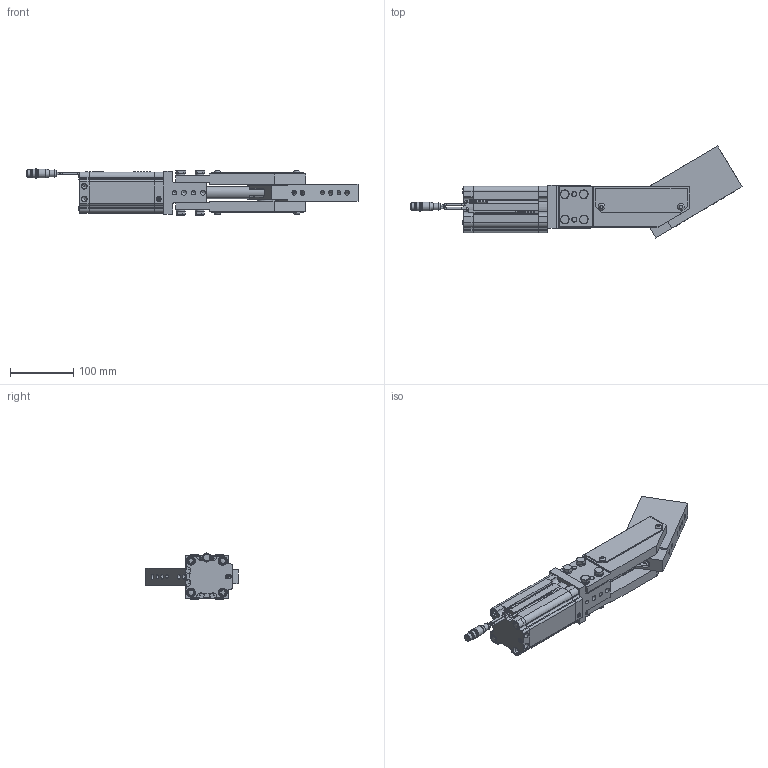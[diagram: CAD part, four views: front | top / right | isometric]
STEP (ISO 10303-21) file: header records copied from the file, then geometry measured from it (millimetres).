
FILE_DESCRIPTION(/* description */ ('PART EJECTOR'),/* implementation_level */ '2;1');
FILE_NAME(/* name */ 'C:\Users\rcarver\Desktop\MPE\MPE030A300AL01A000-EXTENDED.stp',/* time_stamp */ '2016-05-25T10:39:39-04:00',/* author */ ('rcarver'),/* organization */ (''),/* preprocessor_version */ 'ST-DEVELOPER v16.5',/* originating_system */ 'Autodesk Inventor 2017',/* authorisation */ '');
FILE_SCHEMA (('AUTOMOTIVE_DESIGN { 1 0 10303 214 3 1 1 }'));
Products named in the file (42): MPE30L01; WCW2148E02-075; MPE30E03N; MPE30E03G; MPE30E09; MPE30E06; MPE30E07; MPE30E08; MPE30E12; WCW2148E04; WCW2148E01; FEF-405-1; GSI-1214-16; M8X1.25-25 HEX; NL8; MPE30E16; 0.500-20 HEXJAMNUT; 0.062-27 NPT PLUG; PLH005A; MA1500x2.00DIA; MC0750X1000-125N; OR-032-RADIAL; OR-011-FACE; TSP-326BN70; TSR-075BN70; TSI-1214-06; M5X0.8-120 SHCS; 0.500X1.000 DOWEL; NL5SP; MPS L0 SWITCH ASSY-50; MPC_BIM-UNT-Cable-50 STK; MPS_BIM-UNT-Cable2; connector; M6X1-135 SHCS; NL6; 0.50ID-SAE; MOR-2.0X016.0bn70; 8mmX20 ; MPE30E14; SH-50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
Assembly tree (78 placements, depth 3):
  MPE30L01
    WCW2148E02-075
    MPE30E03N
    MPE30E03G
    MPE30E09
    MPE30E06  x2
    MPE30E07
    MPE30E08
    MPE30E12  x2
    WCW2148E04
    WCW2148E01
    FEF-405-1  x2
    GSI-1214-16  x2
    M8X1.25-25 HEX  x8
    NL8  x8
    MPE30E16  x4
    0.500-20 HEXJAMNUT
    0.062-27 NPT PLUG
    PLH005A  x2
    MA1500x2.00DIA
    MC0750X1000-125N  x2
    OR-032-RADIAL  x2
    OR-011-FACE  x2
    TSP-326BN70
    TSR-075BN70
    TSI-1214-06
    M5X0.8-120 SHCS  x2
    0.500X1.000 DOWEL
    NL5SP  x2
    MPS L0 SWITCH ASSY-50
      MPC_BIM-UNT-Cable-50 STK
      MPS_BIM-UNT-Cable2
      connector
    M6X1-135 SHCS  x2
    NL6  x2
    0.50ID-SAE
    MOR-2.0X016.0bn70
    8mmX20   x2
    MPE30E14  x2
    SH-50  x4
    MPE30E15
    M6X1-10 BHCS  x4
Bounding box: 523.36 x 145.13 x 72.52 mm (x, y, z)
Volume: 1224065.7 mm3; surface area: 397589.6 mm2
Topology: 77 solids, 159 shells, 1399 faces, 3363 edges, 2311 vertices
Faces by surface type: plane 689, cylinder 466, cone 177, bspline 39, torus 26, sphere 2
Full cylindrical faces by diameter (mm): 0.01 x1, 1.191 x4, 1.9 x2, 2.6 x2, 3.175 x8, 3.2 x6, 4 x2, 4.134 x2, 4.917 x12, 4.978 x4, 5 x6, 5.4 x2, 5.944 x1, 6 x9, 6.5 x16, 6.647 x14, 7.5 x4, 7.95 x2, 8 x29, 8.05 x2, 8.5 x12, 8.7 x8, 9.6 x1, 10 x2, 10.2 x1, 10.49 x1, 10.5 x4, 10.8 x2, 10.9 x2, 11.201 x3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
Entity records: 29363 total; most frequent: CARTESIAN_POINT 5823, DIRECTION 4841, ORIENTED_EDGE 3860, EDGE_CURVE 1977, AXIS2_PLACEMENT_3D 1896, EDGE_LOOP 1531, VERTEX_POINT 1486, LINE 1049
